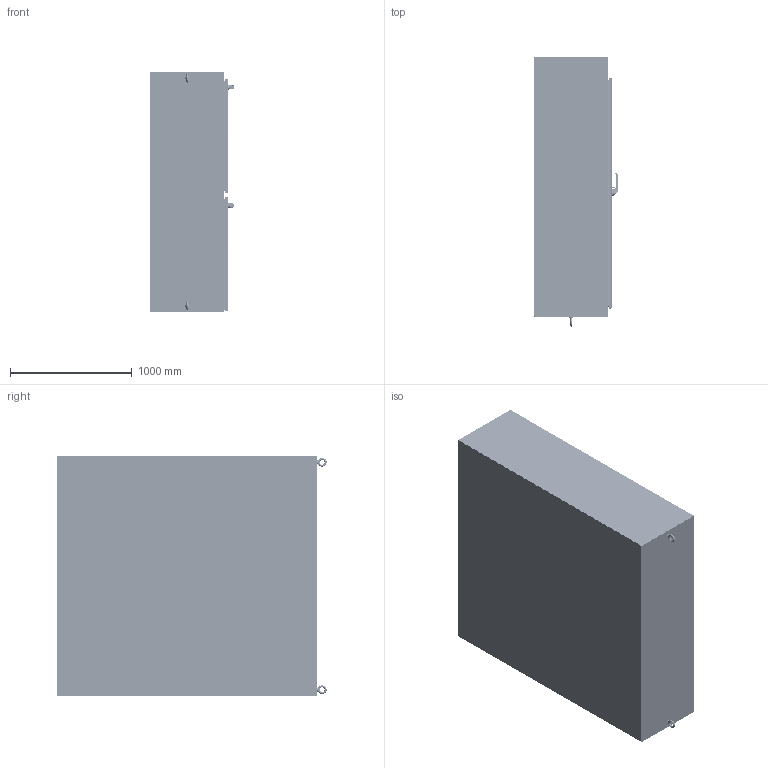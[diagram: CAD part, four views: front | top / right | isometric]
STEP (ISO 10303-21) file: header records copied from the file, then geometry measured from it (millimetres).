
FILE_DESCRIPTION((''),'2;1');
FILE_NAME('MODEL-224_ASM','2021-06-15T13:08:13',('johnh'),('SAGINAW CONTROL & ENGINEERING'),'CREO PARAMETRIC BY PTC INC, 2017260','CREO PARAMETRIC BY PTC INC, 2017260','');
FILE_SCHEMA(('AUTOMOTIVE_DESIGN { 1 0 10303 214 1 1 1 1 }'));
Length unit declared in the file: inch
Products named in the file (125): MODEL-224-TP; MODEL-224-R-SD; MODEL-224-L-SD; MODEL-224-BTM; MODEL-224-BCK; MODEL-224-BCK-LH; MODEL-224-SM-BRC; MODEL-224-M-DR; 100837; 111267; 100882; 100952_HANDLE; 100952_HANDLE_INSERT; 100952_SHAFT_CAM; 100952_ADAPTER_CAM; 100952_NUT_CAM; 100952_BASE; 100952_O-RING; 100952_WASHER_SEALING; 100952_NUT_MOUNTING_LARGE; 100952_NUT_MOUNTING_SMALL; 100952_SCREW_SMALL; 100952_INSERT; 100952_PADLOCK_CATCH; 100952_ASM; 102237; 100030; 102237_ASM; MODEL-224-ROD-UPR-MD; 128146; 128145; 128144; 102482; MODEL-224-ROD-UPR-MD_ASM; 128143; 112504; MODEL-224-ROD-LWR-MD; MODEL-224-ROD-LWR-MD_ASM; MODEL-224-PR-GSKT-M; 113885_SHAFT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
Assembly tree (268 placements, depth 4):
  MODEL-224_ASM
    MODEL-224-TP
    MODEL-224-R-SD
    MODEL-224-L-SD
    MODEL-224-BTM
    MODEL-224-BCK
    MODEL-224-BCK-LH
    MODEL-224-SM-BRC
    MODEL-224-M-DOOR-ASSY_ASM
      MODEL-224-M-DR
      100837  x7
      111267
      100882  x12
      100952_ASM
        100952_HANDLE
        100952_HANDLE_INSERT
        100952_SHAFT_CAM
        100952_ADAPTER_CAM
        100952_NUT_CAM
        100952_BASE
        100952_O-RING
        100952_WASHER_SEALING
        100952_NUT_MOUNTING_LARGE
        100952_NUT_MOUNTING_SMALL
        100952_SCREW_SMALL
        100952_INSERT
        100952_PADLOCK_CATCH
      102237_ASM
        102237
        100030  x2
      MODEL-224-ROD-UPR-MD_ASM
        MODEL-224-ROD-UPR-MD
        128146
        128145
        128144
        102482  x2
      128143  x2
      112504  x2
      MODEL-224-ROD-LWR-MD_ASM
        MODEL-224-ROD-LWR-MD
        128146
        128145
        128144
        102482  x2
      MODEL-224-PR-GSKT-M
      113885_ASM  x2
        113885_SHAFT
        113885_INSERT
        113885_CAM_30MM
        113885_NUT
        113885_SCREW
      128258_ASM  x4
        128258
        126397
      126395  x4
      102483  x4
      101383_ASM  x4
        101383
        101383-STUD
      101221  x4
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Bounding box: 686.97 x 2212.64 x 1974.85 mm (x, y, z)
Volume: 53710260.9 mm3; surface area: 38779018.3 mm2
Topology: 299 solids, 299 shells, 22611 faces, 58156 edges, 36231 vertices
Faces by surface type: plane 8443, cylinder 6102, bspline 4690, torus 1421, cone 1391, sphere 564
Entity records: 425423 total; most frequent: CARTESIAN_POINT 124559, ORIENTED_EDGE 42702, DIRECTION 40628, PRESENTATION_STYLE_ASSIGNMENT 22512, STYLED_ITEM 21863, CURVE_STYLE 21351, EDGE_CURVE 21351, AXIS2_PLACEMENT_3D 15112
